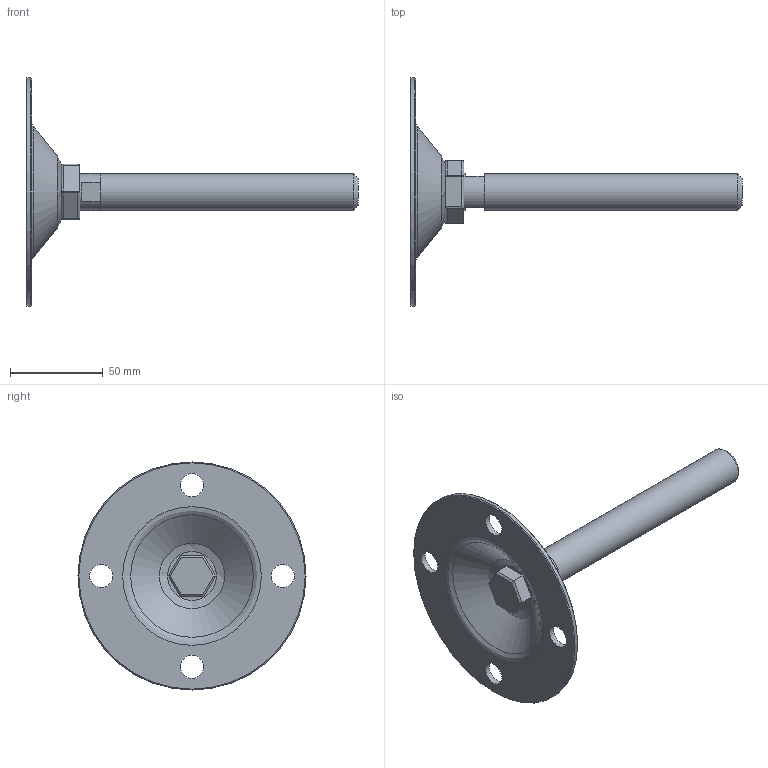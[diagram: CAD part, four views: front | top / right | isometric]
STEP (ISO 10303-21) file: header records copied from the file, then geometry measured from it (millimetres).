
FILE_DESCRIPTION(('STEP AP203'),'2;1');
FILE_NAME('15616Z-FIX.stp','2014-02-03T10:09:45',(''),(''),'2008.1.107','THINKDESIGN','');
FILE_SCHEMA(('CONFIG_CONTROL_DESIGN'));
Length unit declared in the file: millimetre
Bounding box: 179 x 123 x 123 mm (x, y, z)
Volume: 93992.1 mm3; surface area: 41490.7 mm2
Topology: 6 solids, 6 shells, 80 faces, 199 edges, 125 vertices
Faces by surface type: plane 30, cylinder 26, bspline 24
Full cylindrical faces by diameter (mm): 12.5 x4, 14 x1, 20 x4, 123 x1
Entity records: 3542 total; most frequent: CARTESIAN_POINT 1561, DIRECTION 398, ORIENTED_EDGE 382, EDGE_CURVE 191, AXIS2_PLACEMENT_3D 155, VERTEX_POINT 125, CIRCLE 95, EDGE_LOOP 94
